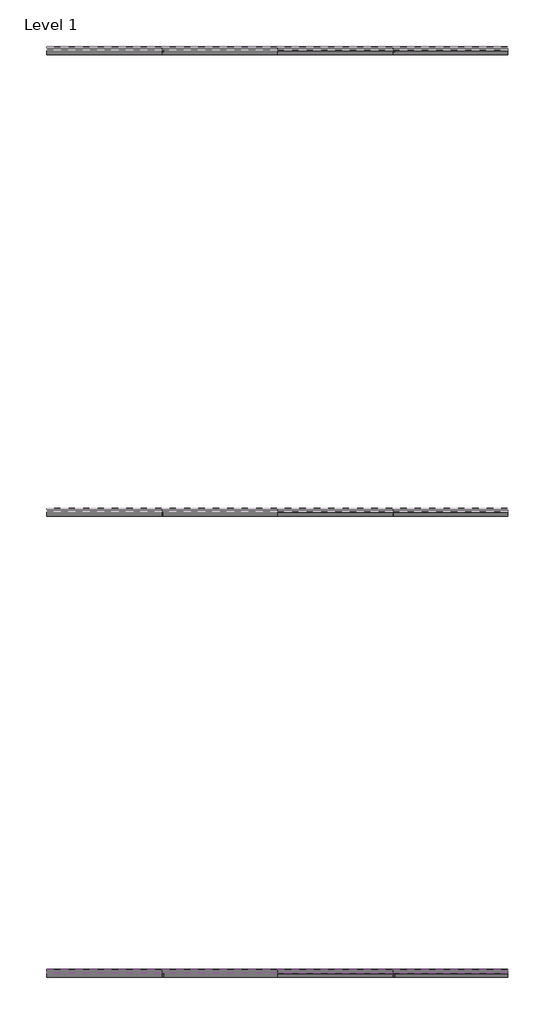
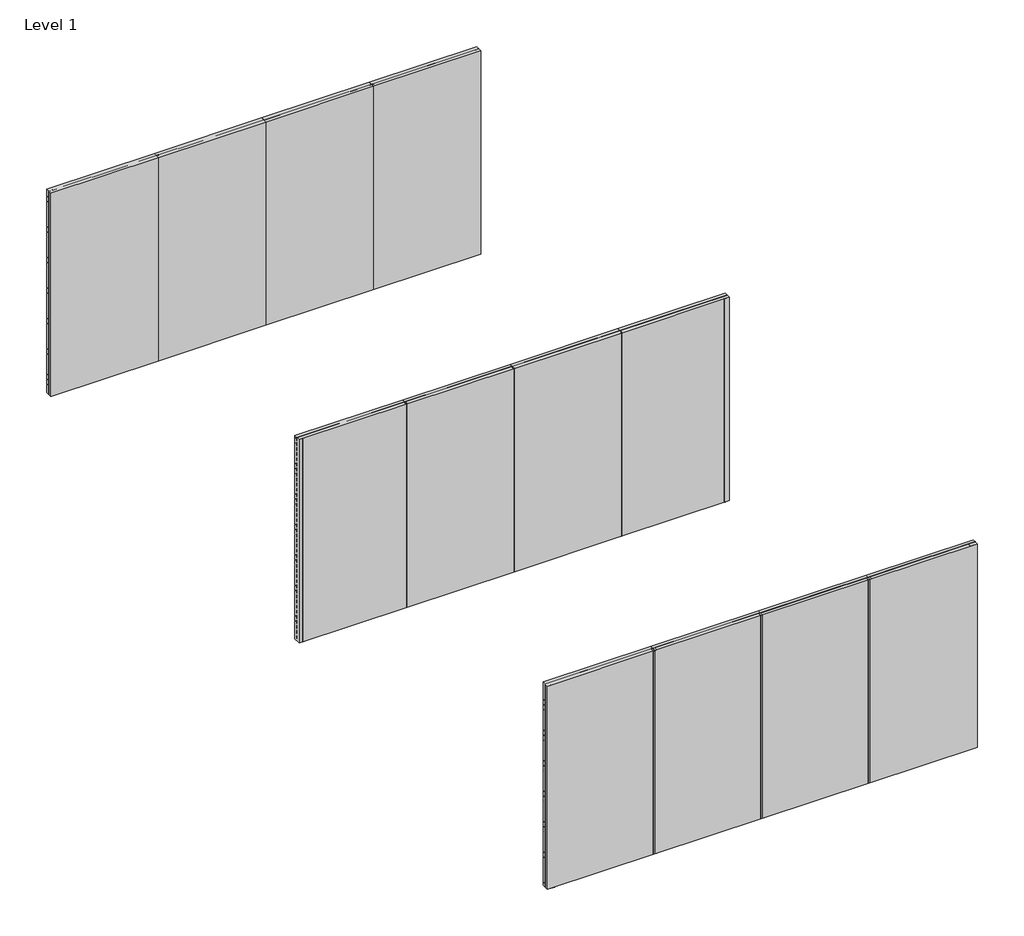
# One storey, part 1 of 2: 49 proxies, 15 members, 15 plates.
"""IFC4 building model written with IfcOpenShell, lengths in millimetres."""

from ifc_helpers import new_model, si_unit, frame, origin, origin_with_axes, place, context, project, spatial, polyline, outline, extrude, transform, mapped, element, save
from components import rectangular_mullion_bbbcbd30, rectangular_mullion_f8d4a220, rectangular_mullion_81aaf6fe, rectangular_mullion_6e08dc26, rectangular_mullion_75c52e10, rectangular_mullion_40295cf1, rectangular_mullion_7f158cb3, rectangular_mullion_66519e13, rectangular_mullion_5829b51c, empty_system_panel_empty_ae16e1e1

model = new_model("IFC4")

# Units and contexts
model_context = context("Model", 3, world=origin())
ifc_project = project(units=[si_unit("LENGTHUNIT", "METRE", prefix="MILLI")], contexts=[model_context])

# Site, building, storey
site = spatial("IfcSite", under=ifc_project)
building = spatial("IfcBuilding", under=site)
storey = spatial("IfcBuildingStorey", under=building, Name="Level 1", Elevation=0.0)

# Proxies
placement = place(None, origin())
element("IfcBuildingElementProxy", 1, Name="Wall Sweeps", at=placement, inside=storey, context=model_context, shape_type="SweptSolid", body=[
    extrude(outline(polyline([(-7995.0, 3000.0), (-7995.0, 2991.2901632), (-7946.0, 2963.0), (-7946.0, 2928.0), (-7997.0, 2957.4448637), (-7997.0, 3000.0), (-7995.0, 3000.0)])), frame((0.0, 0.0, 0.0), z_axis=(1.0, 0.0, 0.0), x_axis=(0.0, 1.0, 0.0)), (0.0, 0.0, 1.0), 6000.0),
])
element("IfcBuildingElementProxy", 2, Name="Wall Sweeps", at=placement, inside=storey, context=model_context, shape_type="SweptSolid", body=[
    extrude(outline(polyline([(-7995.0, 2925.0), (-7995.0, 2916.2901632), (-7946.0, 2888.0), (-7946.0, 2853.0), (-7997.0, 2882.4448637), (-7997.0, 2925.0), (-7995.0, 2925.0)])), frame((0.0, 0.0, 0.0), z_axis=(1.0, 0.0, 0.0), x_axis=(0.0, 1.0, 0.0)), (0.0, 0.0, 1.0), 6000.0),
])
element("IfcBuildingElementProxy", 3, Name="Wall Sweeps", at=placement, inside=storey, context=model_context, shape_type="SweptSolid", body=[
    extrude(outline(polyline([(-7995.0, 2850.0), (-7995.0, 2841.2901632), (-7946.0, 2813.0), (-7946.0, 2778.0), (-7997.0, 2807.4448637), (-7997.0, 2850.0), (-7995.0, 2850.0)])), frame((0.0, 0.0, 0.0), z_axis=(1.0, 0.0, 0.0), x_axis=(0.0, 1.0, 0.0)), (0.0, 0.0, 1.0), 6000.0),
])
element("IfcBuildingElementProxy", 4, Name="Wall Sweeps", at=placement, inside=storey, context=model_context, shape_type="SweptSolid", body=[
    extrude(outline(polyline([(-7995.0, 2775.0), (-7995.0, 2766.2901632), (-7946.0, 2738.0), (-7946.0, 2703.0), (-7997.0, 2732.4448637), (-7997.0, 2775.0), (-7995.0, 2775.0)])), frame((0.0, 0.0, 0.0), z_axis=(1.0, 0.0, 0.0), x_axis=(0.0, 1.0, 0.0)), (0.0, 0.0, 1.0), 6000.0),
])
element("IfcBuildingElementProxy", 5, Name="Wall Sweeps", at=placement, inside=storey, context=model_context, shape_type="SweptSolid", body=[
    extrude(outline(polyline([(-7995.0, 2700.0), (-7995.0, 2691.2901632), (-7946.0, 2663.0), (-7946.0, 2628.0), (-7997.0, 2657.4448637), (-7997.0, 2700.0), (-7995.0, 2700.0)])), frame((0.0, 0.0, 0.0), z_axis=(1.0, 0.0, 0.0), x_axis=(0.0, 1.0, 0.0)), (0.0, 0.0, 1.0), 6000.0),
])
element("IfcBuildingElementProxy", 6, Name="Wall Sweeps", at=placement, inside=storey, context=model_context, shape_type="SweptSolid", body=[
    extrude(outline(polyline([(-7995.0, 2625.0), (-7995.0, 2616.2901632), (-7946.0, 2588.0), (-7946.0, 2553.0), (-7997.0, 2582.4448637), (-7997.0, 2625.0), (-7995.0, 2625.0)])), frame((0.0, 0.0, 0.0), z_axis=(1.0, 0.0, 0.0), x_axis=(0.0, 1.0, 0.0)), (0.0, 0.0, 1.0), 6000.0),
])
element("IfcBuildingElementProxy", 7, Name="Wall Sweeps", at=placement, inside=storey, context=model_context, shape_type="SweptSolid", body=[
    extrude(outline(polyline([(-7995.0, 2550.0), (-7995.0, 2541.2901632), (-7946.0, 2513.0), (-7946.0, 2478.0), (-7997.0, 2507.4448637), (-7997.0, 2550.0), (-7995.0, 2550.0)])), frame((0.0, 0.0, 0.0), z_axis=(1.0, 0.0, 0.0), x_axis=(0.0, 1.0, 0.0)), (0.0, 0.0, 1.0), 6000.0),
])
element("IfcBuildingElementProxy", 8, Name="Wall Sweeps", at=placement, inside=storey, context=model_context, shape_type="SweptSolid", body=[
    extrude(outline(polyline([(-7995.0, 2475.0), (-7995.0, 2466.2901632), (-7946.0, 2438.0), (-7946.0, 2403.0), (-7997.0, 2432.4448637), (-7997.0, 2475.0), (-7995.0, 2475.0)])), frame((0.0, 0.0, 0.0), z_axis=(1.0, 0.0, 0.0), x_axis=(0.0, 1.0, 0.0)), (0.0, 0.0, 1.0), 6000.0),
])
element("IfcBuildingElementProxy", 9, Name="Wall Sweeps", at=placement, inside=storey, context=model_context, shape_type="SweptSolid", body=[
    extrude(outline(polyline([(-7995.0, 2400.0), (-7995.0, 2391.2901632), (-7946.0, 2363.0), (-7946.0, 2328.0), (-7997.0, 2357.4448637), (-7997.0, 2400.0), (-7995.0, 2400.0)])), frame((0.0, 0.0, 0.0), z_axis=(1.0, 0.0, 0.0), x_axis=(0.0, 1.0, 0.0)), (0.0, 0.0, 1.0), 6000.0),
])
element("IfcBuildingElementProxy", 10, Name="Wall Sweeps", at=placement, inside=storey, context=model_context, shape_type="SweptSolid", body=[
    extrude(outline(polyline([(-13995.0, 3000.0), (-13995.0, 2991.2901632), (-13946.0, 2963.0), (-13946.0, 2928.0), (-13997.0, 2957.4448637), (-13997.0, 3000.0), (-13995.0, 3000.0)])), frame((0.0, 0.0, 0.0), z_axis=(1.0, 0.0, 0.0), x_axis=(0.0, 1.0, 0.0)), (0.0, 0.0, 1.0), 6000.0),
])
element("IfcBuildingElementProxy", 11, Name="Wall Sweeps", at=placement, inside=storey, context=model_context, shape_type="SweptSolid", body=[
    extrude(outline(polyline([(-13995.0, 2925.0), (-13995.0, 2916.2901632), (-13946.0, 2888.0), (-13946.0, 2853.0), (-13997.0, 2882.4448637), (-13997.0, 2925.0), (-13995.0, 2925.0)])), frame((0.0, 0.0, 0.0), z_axis=(1.0, 0.0, 0.0), x_axis=(0.0, 1.0, 0.0)), (0.0, 0.0, 1.0), 6000.0),
])
element("IfcBuildingElementProxy", 12, Name="Wall Sweeps", at=placement, inside=storey, context=model_context, shape_type="SweptSolid", body=[
    extrude(outline(polyline([(-13995.0, 2850.0), (-13995.0, 2841.2901632), (-13946.0, 2813.0), (-13946.0, 2778.0), (-13997.0, 2807.4448637), (-13997.0, 2850.0), (-13995.0, 2850.0)])), frame((0.0, 0.0, 0.0), z_axis=(1.0, 0.0, 0.0), x_axis=(0.0, 1.0, 0.0)), (0.0, 0.0, 1.0), 6000.0),
])
element("IfcBuildingElementProxy", 13, Name="Wall Sweeps", at=placement, inside=storey, context=model_context, shape_type="SweptSolid", body=[
    extrude(outline(polyline([(-13995.0, 2775.0), (-13995.0, 2766.2901632), (-13946.0, 2738.0), (-13946.0, 2703.0), (-13997.0, 2732.4448637), (-13997.0, 2775.0), (-13995.0, 2775.0)])), frame((0.0, 0.0, 0.0), z_axis=(1.0, 0.0, 0.0), x_axis=(0.0, 1.0, 0.0)), (0.0, 0.0, 1.0), 6000.0),
])
element("IfcBuildingElementProxy", 14, Name="Wall Sweeps", at=placement, inside=storey, context=model_context, shape_type="SweptSolid", body=[
    extrude(outline(polyline([(-13995.0, 2700.0), (-13995.0, 2691.2901632), (-13946.0, 2663.0), (-13946.0, 2628.0), (-13997.0, 2657.4448637), (-13997.0, 2700.0), (-13995.0, 2700.0)])), frame((0.0, 0.0, 0.0), z_axis=(1.0, 0.0, 0.0), x_axis=(0.0, 1.0, 0.0)), (0.0, 0.0, 1.0), 6000.0),
])
element("IfcBuildingElementProxy", 15, Name="Wall Sweeps", at=placement, inside=storey, context=model_context, shape_type="SweptSolid", body=[
    extrude(outline(polyline([(-13995.0, 2625.0), (-13995.0, 2616.2901632), (-13946.0, 2588.0), (-13946.0, 2553.0), (-13997.0, 2582.4448637), (-13997.0, 2625.0), (-13995.0, 2625.0)])), frame((0.0, 0.0, 0.0), z_axis=(1.0, 0.0, 0.0), x_axis=(0.0, 1.0, 0.0)), (0.0, 0.0, 1.0), 6000.0),
])
element("IfcBuildingElementProxy", 16, Name="Wall Sweeps", at=placement, inside=storey, context=model_context, shape_type="SweptSolid", body=[
    extrude(outline(polyline([(-13995.0, 2550.0), (-13995.0, 2541.2901632), (-13946.0, 2513.0), (-13946.0, 2478.0), (-13997.0, 2507.4448637), (-13997.0, 2550.0), (-13995.0, 2550.0)])), frame((0.0, 0.0, 0.0), z_axis=(1.0, 0.0, 0.0), x_axis=(0.0, 1.0, 0.0)), (0.0, 0.0, 1.0), 6000.0),
])
element("IfcBuildingElementProxy", 17, Name="Wall Sweeps", at=placement, inside=storey, context=model_context, shape_type="SweptSolid", body=[
    extrude(outline(polyline([(-13995.0, 2475.0), (-13995.0, 2466.2901632), (-13946.0, 2438.0), (-13946.0, 2403.0), (-13997.0, 2432.4448637), (-13997.0, 2475.0), (-13995.0, 2475.0)])), frame((0.0, 0.0, 0.0), z_axis=(1.0, 0.0, 0.0), x_axis=(0.0, 1.0, 0.0)), (0.0, 0.0, 1.0), 6000.0),
])
element("IfcBuildingElementProxy", 18, Name="Wall Sweeps", at=placement, inside=storey, context=model_context, shape_type="SweptSolid", body=[
    extrude(outline(polyline([(-13995.0, 2400.0), (-13995.0, 2391.2901632), (-13946.0, 2363.0), (-13946.0, 2328.0), (-13997.0, 2357.4448637), (-13997.0, 2400.0), (-13995.0, 2400.0)])), frame((0.0, 0.0, 0.0), z_axis=(1.0, 0.0, 0.0), x_axis=(0.0, 1.0, 0.0)), (0.0, 0.0, 1.0), 6000.0),
])
element("IfcBuildingElementProxy", 19, Name="Wall Sweeps", at=placement, inside=storey, context=model_context, shape_type="SweptSolid", body=[
    extrude(outline(polyline([(-13995.0, 2325.0), (-13995.0, 2316.2901632), (-13946.0, 2288.0), (-13946.0, 2253.0), (-13997.0, 2282.4448637), (-13997.0, 2325.0), (-13995.0, 2325.0)])), frame((0.0, 0.0, 0.0), z_axis=(1.0, 0.0, 0.0), x_axis=(0.0, 1.0, 0.0)), (0.0, 0.0, 1.0), 6000.0),
])
element("IfcBuildingElementProxy", 20, Name="Wall Sweeps", at=placement, inside=storey, context=model_context, shape_type="SweptSolid", body=[
    extrude(outline(polyline([(-13995.0, 2250.0), (-13995.0, 2241.2901632), (-13946.0, 2213.0), (-13946.0, 2178.0), (-13997.0, 2207.4448637), (-13997.0, 2250.0), (-13995.0, 2250.0)])), frame((0.0, 0.0, 0.0), z_axis=(1.0, 0.0, 0.0), x_axis=(0.0, 1.0, 0.0)), (0.0, 0.0, 1.0), 6000.0),
])
element("IfcBuildingElementProxy", 21, Name="Wall Sweeps", at=placement, inside=storey, context=model_context, shape_type="SweptSolid", body=[
    extrude(outline(polyline([(-13995.0, 2175.0), (-13995.0, 2166.2901632), (-13946.0, 2138.0), (-13946.0, 2103.0), (-13997.0, 2132.4448637), (-13997.0, 2175.0), (-13995.0, 2175.0)])), frame((0.0, 0.0, 0.0), z_axis=(1.0, 0.0, 0.0), x_axis=(0.0, 1.0, 0.0)), (0.0, 0.0, 1.0), 6000.0),
])
element("IfcBuildingElementProxy", 22, Name="Wall Sweeps", at=placement, inside=storey, context=model_context, shape_type="SweptSolid", body=[
    extrude(outline(polyline([(-13995.0, 2100.0), (-13995.0, 2091.2901632), (-13946.0, 2063.0), (-13946.0, 2028.0), (-13997.0, 2057.4448637), (-13997.0, 2100.0), (-13995.0, 2100.0)])), frame((0.0, 0.0, 0.0), z_axis=(1.0, 0.0, 0.0), x_axis=(0.0, 1.0, 0.0)), (0.0, 0.0, 1.0), 6000.0),
])
element("IfcBuildingElementProxy", 23, Name="Wall Sweeps", at=placement, inside=storey, context=model_context, shape_type="SweptSolid", body=[
    extrude(outline(polyline([(-13995.0, 2025.0), (-13995.0, 2016.2901632), (-13946.0, 1988.0), (-13946.0, 1953.0), (-13997.0, 1982.4448637), (-13997.0, 2025.0), (-13995.0, 2025.0)])), frame((0.0, 0.0, 0.0), z_axis=(1.0, 0.0, 0.0), x_axis=(0.0, 1.0, 0.0)), (0.0, 0.0, 1.0), 6000.0),
])
element("IfcBuildingElementProxy", 24, Name="Wall Sweeps", at=placement, inside=storey, context=model_context, shape_type="SweptSolid", body=[
    extrude(outline(polyline([(-13995.0, 1950.0), (-13995.0, 1941.2901632), (-13946.0, 1913.0), (-13946.0, 1878.0), (-13997.0, 1907.4448637), (-13997.0, 1950.0), (-13995.0, 1950.0)])), frame((0.0, 0.0, 0.0), z_axis=(1.0, 0.0, 0.0), x_axis=(0.0, 1.0, 0.0)), (0.0, 0.0, 1.0), 6000.0),
])
element("IfcBuildingElementProxy", 25, Name="Wall Sweeps", at=placement, inside=storey, context=model_context, shape_type="SweptSolid", body=[
    extrude(outline(polyline([(-13995.0, 1875.0), (-13995.0, 1866.2901632), (-13946.0, 1838.0), (-13946.0, 1803.0), (-13997.0, 1832.4448637), (-13997.0, 1875.0), (-13995.0, 1875.0)])), frame((0.0, 0.0, 0.0), z_axis=(1.0, 0.0, 0.0), x_axis=(0.0, 1.0, 0.0)), (0.0, 0.0, 1.0), 6000.0),
])
element("IfcBuildingElementProxy", 26, Name="Wall Sweeps", at=placement, inside=storey, context=model_context, shape_type="SweptSolid", body=[
    extrude(outline(polyline([(-13995.0, 1800.0), (-13995.0, 1791.2901632), (-13946.0, 1763.0), (-13946.0, 1728.0), (-13997.0, 1757.4448637), (-13997.0, 1800.0), (-13995.0, 1800.0)])), frame((0.0, 0.0, 0.0), z_axis=(1.0, 0.0, 0.0), x_axis=(0.0, 1.0, 0.0)), (0.0, 0.0, 1.0), 6000.0),
])
element("IfcBuildingElementProxy", 27, Name="Wall Sweeps", at=placement, inside=storey, context=model_context, shape_type="SweptSolid", body=[
    extrude(outline(polyline([(-13995.0, 1725.0), (-13995.0, 1716.2901632), (-13946.0, 1688.0), (-13946.0, 1653.0), (-13997.0, 1682.4448637), (-13997.0, 1725.0), (-13995.0, 1725.0)])), frame((0.0, 0.0, 0.0), z_axis=(1.0, 0.0, 0.0), x_axis=(0.0, 1.0, 0.0)), (0.0, 0.0, 1.0), 6000.0),
])
element("IfcBuildingElementProxy", 28, Name="Wall Sweeps", at=placement, inside=storey, context=model_context, shape_type="SweptSolid", body=[
    extrude(outline(polyline([(-13995.0, 1650.0), (-13995.0, 1641.2901632), (-13946.0, 1613.0), (-13946.0, 1578.0), (-13997.0, 1607.4448637), (-13997.0, 1650.0), (-13995.0, 1650.0)])), frame((0.0, 0.0, 0.0), z_axis=(1.0, 0.0, 0.0), x_axis=(0.0, 1.0, 0.0)), (0.0, 0.0, 1.0), 6000.0),
])
element("IfcBuildingElementProxy", 29, Name="Wall Sweeps", at=placement, inside=storey, context=model_context, shape_type="SweptSolid", body=[
    extrude(outline(polyline([(-13995.0, 1575.0), (-13995.0, 1566.2901632), (-13946.0, 1538.0), (-13946.0, 1503.0), (-13997.0, 1532.4448637), (-13997.0, 1575.0), (-13995.0, 1575.0)])), frame((0.0, 0.0, 0.0), z_axis=(1.0, 0.0, 0.0), x_axis=(0.0, 1.0, 0.0)), (0.0, 0.0, 1.0), 6000.0),
])
element("IfcBuildingElementProxy", 30, Name="Wall Sweeps", at=placement, inside=storey, context=model_context, shape_type="SweptSolid", body=[
    extrude(outline(polyline([(-13995.0, 1500.0), (-13995.0, 1491.2901632), (-13946.0, 1463.0), (-13946.0, 1428.0), (-13997.0, 1457.4448637), (-13997.0, 1500.0), (-13995.0, 1500.0)])), frame((0.0, 0.0, 0.0), z_axis=(1.0, 0.0, 0.0), x_axis=(0.0, 1.0, 0.0)), (0.0, 0.0, 1.0), 6000.0),
])
element("IfcBuildingElementProxy", 31, Name="Wall Sweeps", at=placement, inside=storey, context=model_context, shape_type="SweptSolid", body=[
    extrude(outline(polyline([(-13995.0, 1425.0), (-13995.0, 1416.2901632), (-13946.0, 1388.0), (-13946.0, 1353.0), (-13997.0, 1382.4448637), (-13997.0, 1425.0), (-13995.0, 1425.0)])), frame((0.0, 0.0, 0.0), z_axis=(1.0, 0.0, 0.0), x_axis=(0.0, 1.0, 0.0)), (0.0, 0.0, 1.0), 6000.0),
])
element("IfcBuildingElementProxy", 32, Name="Wall Sweeps", at=placement, inside=storey, context=model_context, shape_type="SweptSolid", body=[
    extrude(outline(polyline([(-13995.0, 1350.0), (-13995.0, 1341.2901632), (-13946.0, 1313.0), (-13946.0, 1278.0), (-13997.0, 1307.4448637), (-13997.0, 1350.0), (-13995.0, 1350.0)])), frame((0.0, 0.0, 0.0), z_axis=(1.0, 0.0, 0.0), x_axis=(0.0, 1.0, 0.0)), (0.0, 0.0, 1.0), 6000.0),
])
element("IfcBuildingElementProxy", 33, Name="Wall Sweeps", at=placement, inside=storey, context=model_context, shape_type="SweptSolid", body=[
    extrude(outline(polyline([(-13995.0, 1275.0), (-13995.0, 1266.2901632), (-13946.0, 1238.0), (-13946.0, 1203.0), (-13997.0, 1232.4448637), (-13997.0, 1275.0), (-13995.0, 1275.0)])), frame((0.0, 0.0, 0.0), z_axis=(1.0, 0.0, 0.0), x_axis=(0.0, 1.0, 0.0)), (0.0, 0.0, 1.0), 6000.0),
])
element("IfcBuildingElementProxy", 34, Name="Wall Sweeps", at=placement, inside=storey, context=model_context, shape_type="SweptSolid", body=[
    extrude(outline(polyline([(-13995.0, 1200.0), (-13995.0, 1191.2901632), (-13946.0, 1163.0), (-13946.0, 1128.0), (-13997.0, 1157.4448637), (-13997.0, 1200.0), (-13995.0, 1200.0)])), frame((0.0, 0.0, 0.0), z_axis=(1.0, 0.0, 0.0), x_axis=(0.0, 1.0, 0.0)), (0.0, 0.0, 1.0), 6000.0),
])
element("IfcBuildingElementProxy", 35, Name="Wall Sweeps", at=placement, inside=storey, context=model_context, shape_type="SweptSolid", body=[
    extrude(outline(polyline([(-13995.0, 1125.0), (-13995.0, 1116.2901632), (-13946.0, 1088.0), (-13946.0, 1053.0), (-13997.0, 1082.4448637), (-13997.0, 1125.0), (-13995.0, 1125.0)])), frame((0.0, 0.0, 0.0), z_axis=(1.0, 0.0, 0.0), x_axis=(0.0, 1.0, 0.0)), (0.0, 0.0, 1.0), 6000.0),
])
element("IfcBuildingElementProxy", 36, Name="Wall Sweeps", at=placement, inside=storey, context=model_context, shape_type="SweptSolid", body=[
    extrude(outline(polyline([(-13995.0, 1050.0), (-13995.0, 1041.2901632), (-13946.0, 1013.0), (-13946.0, 978.0), (-13997.0, 1007.4448637), (-13997.0, 1050.0), (-13995.0, 1050.0)])), frame((0.0, 0.0, 0.0), z_axis=(1.0, 0.0, 0.0), x_axis=(0.0, 1.0, 0.0)), (0.0, 0.0, 1.0), 6000.0),
])
element("IfcBuildingElementProxy", 37, Name="Wall Sweeps", at=placement, inside=storey, context=model_context, shape_type="SweptSolid", body=[
    extrude(outline(polyline([(-13995.0, 975.0), (-13995.0, 966.2901632), (-13946.0, 938.0), (-13946.0, 903.0), (-13997.0, 932.4448637), (-13997.0, 975.0), (-13995.0, 975.0)])), frame((0.0, 0.0, 0.0), z_axis=(1.0, 0.0, 0.0), x_axis=(0.0, 1.0, 0.0)), (0.0, 0.0, 1.0), 6000.0),
])
element("IfcBuildingElementProxy", 38, Name="Wall Sweeps", at=placement, inside=storey, context=model_context, shape_type="SweptSolid", body=[
    extrude(outline(polyline([(-13995.0, 900.0), (-13995.0, 891.2901632), (-13946.0, 863.0), (-13946.0, 828.0), (-13997.0, 857.4448637), (-13997.0, 900.0), (-13995.0, 900.0)])), frame((0.0, 0.0, 0.0), z_axis=(1.0, 0.0, 0.0), x_axis=(0.0, 1.0, 0.0)), (0.0, 0.0, 1.0), 6000.0),
])
element("IfcBuildingElementProxy", 39, Name="Wall Sweeps", at=placement, inside=storey, context=model_context, shape_type="SweptSolid", body=[
    extrude(outline(polyline([(-13995.0, 825.0), (-13995.0, 816.2901632), (-13946.0, 788.0), (-13946.0, 753.0), (-13997.0, 782.4448637), (-13997.0, 825.0), (-13995.0, 825.0)])), frame((0.0, 0.0, 0.0), z_axis=(1.0, 0.0, 0.0), x_axis=(0.0, 1.0, 0.0)), (0.0, 0.0, 1.0), 6000.0),
])
element("IfcBuildingElementProxy", 40, Name="Wall Sweeps", at=placement, inside=storey, context=model_context, shape_type="SweptSolid", body=[
    extrude(outline(polyline([(-13995.0, 750.0), (-13995.0, 741.2901632), (-13946.0, 713.0), (-13946.0, 678.0), (-13997.0, 707.4448637), (-13997.0, 750.0), (-13995.0, 750.0)])), frame((0.0, 0.0, 0.0), z_axis=(1.0, 0.0, 0.0), x_axis=(0.0, 1.0, 0.0)), (0.0, 0.0, 1.0), 6000.0),
])
element("IfcBuildingElementProxy", 41, Name="Wall Sweeps", at=placement, inside=storey, context=model_context, shape_type="SweptSolid", body=[
    extrude(outline(polyline([(-13995.0, 675.0), (-13995.0, 666.2901632), (-13946.0, 638.0), (-13946.0, 603.0), (-13997.0, 632.4448637), (-13997.0, 675.0), (-13995.0, 675.0)])), frame((0.0, 0.0, 0.0), z_axis=(1.0, 0.0, 0.0), x_axis=(0.0, 1.0, 0.0)), (0.0, 0.0, 1.0), 6000.0),
])
element("IfcBuildingElementProxy", 42, Name="Wall Sweeps", at=placement, inside=storey, context=model_context, shape_type="SweptSolid", body=[
    extrude(outline(polyline([(-13995.0, 600.0), (-13995.0, 591.2901632), (-13946.0, 563.0), (-13946.0, 528.0), (-13997.0, 557.4448637), (-13997.0, 600.0), (-13995.0, 600.0)])), frame((0.0, 0.0, 0.0), z_axis=(1.0, 0.0, 0.0), x_axis=(0.0, 1.0, 0.0)), (0.0, 0.0, 1.0), 6000.0),
])
element("IfcBuildingElementProxy", 43, Name="Wall Sweeps", at=placement, inside=storey, context=model_context, shape_type="SweptSolid", body=[
    extrude(outline(polyline([(-13995.0, 525.0), (-13995.0, 516.2901632), (-13946.0, 488.0), (-13946.0, 453.0), (-13997.0, 482.4448637), (-13997.0, 525.0), (-13995.0, 525.0)])), frame((0.0, 0.0, 0.0), z_axis=(1.0, 0.0, 0.0), x_axis=(0.0, 1.0, 0.0)), (0.0, 0.0, 1.0), 6000.0),
])
element("IfcBuildingElementProxy", 44, Name="Wall Sweeps", at=placement, inside=storey, context=model_context, shape_type="SweptSolid", body=[
    extrude(outline(polyline([(-13995.0, 450.0), (-13995.0, 441.2901632), (-13946.0, 413.0), (-13946.0, 378.0), (-13997.0, 407.4448637), (-13997.0, 450.0), (-13995.0, 450.0)])), frame((0.0, 0.0, 0.0), z_axis=(1.0, 0.0, 0.0), x_axis=(0.0, 1.0, 0.0)), (0.0, 0.0, 1.0), 6000.0),
])
element("IfcBuildingElementProxy", 45, Name="Wall Sweeps", at=placement, inside=storey, context=model_context, shape_type="SweptSolid", body=[
    extrude(outline(polyline([(-13995.0, 375.0), (-13995.0, 366.2901632), (-13946.0, 338.0), (-13946.0, 303.0), (-13997.0, 332.4448637), (-13997.0, 375.0), (-13995.0, 375.0)])), frame((0.0, 0.0, 0.0), z_axis=(1.0, 0.0, 0.0), x_axis=(0.0, 1.0, 0.0)), (0.0, 0.0, 1.0), 6000.0),
])
element("IfcBuildingElementProxy", 46, Name="Wall Sweeps", at=placement, inside=storey, context=model_context, shape_type="SweptSolid", body=[
    extrude(outline(polyline([(-13995.0, 300.0), (-13995.0, 291.2901632), (-13946.0, 263.0), (-13946.0, 228.0), (-13997.0, 257.4448637), (-13997.0, 300.0), (-13995.0, 300.0)])), frame((0.0, 0.0, 0.0), z_axis=(1.0, 0.0, 0.0), x_axis=(0.0, 1.0, 0.0)), (0.0, 0.0, 1.0), 6000.0),
])
element("IfcBuildingElementProxy", 47, Name="Wall Sweeps", at=placement, inside=storey, context=model_context, shape_type="SweptSolid", body=[
    extrude(outline(polyline([(-13995.0, 225.0), (-13995.0, 216.2901632), (-13946.0, 188.0), (-13946.0, 153.0), (-13997.0, 182.4448637), (-13997.0, 225.0), (-13995.0, 225.0)])), frame((0.0, 0.0, 0.0), z_axis=(1.0, 0.0, 0.0), x_axis=(0.0, 1.0, 0.0)), (0.0, 0.0, 1.0), 6000.0),
])
element("IfcBuildingElementProxy", 48, Name="Wall Sweeps", at=placement, inside=storey, context=model_context, shape_type="SweptSolid", body=[
    extrude(outline(polyline([(-13995.0, 150.0), (-13995.0, 141.2901632), (-13946.0, 113.0), (-13946.0, 78.0), (-13997.0, 107.4448637), (-13997.0, 150.0), (-13995.0, 150.0)])), frame((0.0, 0.0, 0.0), z_axis=(1.0, 0.0, 0.0), x_axis=(0.0, 1.0, 0.0)), (0.0, 0.0, 1.0), 6000.0),
])
element("IfcBuildingElementProxy", 49, Name="Wall Sweeps", at=placement, inside=storey, context=model_context, shape_type="SweptSolid", body=[
    extrude(outline(polyline([(-13995.0, 75.0), (-13995.0, 66.2901632), (-13946.0, 38.0), (-13946.0, 3.0), (-13997.0, 32.4448637), (-13997.0, 75.0), (-13995.0, 75.0)])), frame((0.0, 0.0, 0.0), z_axis=(1.0, 0.0, 0.0), x_axis=(0.0, 1.0, 0.0)), (0.0, 0.0, 1.0), 6000.0),
])

# Members
rectangular_mullion_shape = rectangular_mullion_bbbcbd30(model_context)
element("IfcMember", 50, ObjectType="Rectangular Mullion : RSen_21_CWM_support profile - 50x12 - left_gen_duco projects", at=placement, inside=storey, context=model_context, shape_type="MappedRepresentation", body=[
    mapped(rectangular_mullion_shape, transform((0.0, -2000.0, 0.0), x_axis=(-1.0, 0.0, 0.0), y_axis=(0.0, 1.0, 0.0), z_axis=(0.0, 0.0, -1.0))),
])
rectangular_mullion_2_shape = rectangular_mullion_f8d4a220(model_context)
element("IfcMember", 51, ObjectType="Rectangular Mullion : RSen_21_CWM_support profile - 50x12 - right_gen_duco projects", at=placement, inside=storey, context=model_context, shape_type="MappedRepresentation", body=[
    mapped(rectangular_mullion_2_shape, transform((6000.0, -2000.0, 3000.0), x_axis=(1.0, 0.0, 0.0), y_axis=(0.0, 1.0, 0.0), z_axis=(0.0, 0.0, 1.0))),
])
rectangular_mullion_3_shape = rectangular_mullion_81aaf6fe(model_context)
element("IfcMember", 52, ObjectType="Rectangular Mullion : RSen_21_CWM_support profile - 21x50 Multi - left_gen_duco projects", at=placement, inside=storey, context=model_context, shape_type="MappedRepresentation", body=[
    mapped(rectangular_mullion_3_shape, transform((0.0, -8000.0, 0.0), x_axis=(-1.0, 0.0, 0.0), y_axis=(0.0, 1.0, 0.0), z_axis=(0.0, 0.0, -1.0))),
])
rectangular_mullion_4_shape = rectangular_mullion_6e08dc26(model_context)
element("IfcMember", 53, ObjectType="Rectangular Mullion : RSen_21_CWM_support profile - 21x50 Multi - right_gen_duco projects", at=placement, inside=storey, context=model_context, shape_type="MappedRepresentation", body=[
    mapped(rectangular_mullion_4_shape, transform((6000.0, -8000.0, 3000.0), x_axis=(1.0, 0.0, 0.0), y_axis=(0.0, 1.0, 0.0), z_axis=(0.0, 0.0, 1.0))),
])
rectangular_mullion_5_shape = rectangular_mullion_75c52e10(model_context)
element("IfcMember", 54, ObjectType="Rectangular Mullion : RSen_21_CWM_support profile - 50x50 - left_gen_duco projects", at=placement, inside=storey, context=model_context, shape_type="MappedRepresentation", body=[
    mapped(rectangular_mullion_5_shape, transform((0.0, -14000.0, 0.0), x_axis=(-1.0, 0.0, 0.0), y_axis=(0.0, 1.0, 0.0), z_axis=(0.0, 0.0, -1.0))),
])
rectangular_mullion_6_shape = rectangular_mullion_40295cf1(model_context)
element("IfcMember", 55, ObjectType="Rectangular Mullion : RSen_21_CWM_support profile - 50x50 - right_gen_duco projects", at=placement, inside=storey, context=model_context, shape_type="MappedRepresentation", body=[
    mapped(rectangular_mullion_6_shape, transform((6000.0, -14000.0, 3000.0), x_axis=(1.0, 0.0, 0.0), y_axis=(0.0, 1.0, 0.0), z_axis=(0.0, 0.0, 1.0))),
])
rectangular_mullion_7_shape = rectangular_mullion_7f158cb3(model_context)
element("IfcMember", 56, ObjectType="Rectangular Mullion : RSen_21_CWM_support profile - 50x12_gen_duco projects", at=placement, inside=storey, context=model_context, shape_type="MappedRepresentation", body=[
    mapped(rectangular_mullion_7_shape, transform((4500.0, -2000.0, 0.0), x_axis=(-1.0, 0.0, 0.0), y_axis=(0.0, 1.0, 0.0), z_axis=(0.0, 0.0, -1.0))),
])
element("IfcMember", 57, ObjectType="Rectangular Mullion : RSen_21_CWM_support profile - 50x12_gen_duco projects", at=placement, inside=storey, context=model_context, shape_type="MappedRepresentation", body=[
    mapped(rectangular_mullion_7_shape, transform((3000.0, -2000.0, 0.0), x_axis=(-1.0, 0.0, 0.0), y_axis=(0.0, 1.0, 0.0), z_axis=(0.0, 0.0, -1.0))),
])
element("IfcMember", 58, ObjectType="Rectangular Mullion : RSen_21_CWM_support profile - 50x12_gen_duco projects", at=placement, inside=storey, context=model_context, shape_type="MappedRepresentation", body=[
    mapped(rectangular_mullion_7_shape, transform((1500.0, -2000.0, 0.0), x_axis=(-1.0, 0.0, 0.0), y_axis=(0.0, 1.0, 0.0), z_axis=(0.0, 0.0, -1.0))),
])
rectangular_mullion_8_shape = rectangular_mullion_66519e13(model_context)
element("IfcMember", 59, ObjectType="Rectangular Mullion : RSen_21_CWM_support profile - 21x50 Multi_gen_duco projects", at=placement, inside=storey, context=model_context, shape_type="MappedRepresentation", body=[
    mapped(rectangular_mullion_8_shape, transform((4500.0, -8000.0, 0.0), x_axis=(-1.0, 0.0, 0.0), y_axis=(0.0, 1.0, 0.0), z_axis=(0.0, 0.0, -1.0))),
])
element("IfcMember", 60, ObjectType="Rectangular Mullion : RSen_21_CWM_support profile - 21x50 Multi_gen_duco projects", at=placement, inside=storey, context=model_context, shape_type="MappedRepresentation", body=[
    mapped(rectangular_mullion_8_shape, transform((3000.0, -8000.0, 0.0), x_axis=(-1.0, 0.0, 0.0), y_axis=(0.0, 1.0, 0.0), z_axis=(0.0, 0.0, -1.0))),
])
element("IfcMember", 61, ObjectType="Rectangular Mullion : RSen_21_CWM_support profile - 21x50 Multi_gen_duco projects", at=placement, inside=storey, context=model_context, shape_type="MappedRepresentation", body=[
    mapped(rectangular_mullion_8_shape, transform((1500.0, -8000.0, 0.0), x_axis=(-1.0, 0.0, 0.0), y_axis=(0.0, 1.0, 0.0), z_axis=(0.0, 0.0, -1.0))),
])
rectangular_mullion_9_shape = rectangular_mullion_5829b51c(model_context)
element("IfcMember", 62, ObjectType="Rectangular Mullion : RSen_21_CWM_support profile - 50x50_gen_duco projects", at=placement, inside=storey, context=model_context, shape_type="MappedRepresentation", body=[
    mapped(rectangular_mullion_9_shape, transform((4500.0, -14000.0, 0.0), x_axis=(-1.0, 0.0, 0.0), y_axis=(0.0, 1.0, 0.0), z_axis=(0.0, 0.0, -1.0))),
])
element("IfcMember", 63, ObjectType="Rectangular Mullion : RSen_21_CWM_support profile - 50x50_gen_duco projects", at=placement, inside=storey, context=model_context, shape_type="MappedRepresentation", body=[
    mapped(rectangular_mullion_9_shape, transform((3000.0, -14000.0, 0.0), x_axis=(-1.0, 0.0, 0.0), y_axis=(0.0, 1.0, 0.0), z_axis=(0.0, 0.0, -1.0))),
])
element("IfcMember", 64, ObjectType="Rectangular Mullion : RSen_21_CWM_support profile - 50x50_gen_duco projects", at=placement, inside=storey, context=model_context, shape_type="MappedRepresentation", body=[
    mapped(rectangular_mullion_9_shape, transform((1500.0, -14000.0, 0.0), x_axis=(-1.0, 0.0, 0.0), y_axis=(0.0, 1.0, 0.0), z_axis=(0.0, 0.0, -1.0))),
])

# Plates
element("IfcPlate", 65, ObjectType="RSen_21_WA_louvre blade classic W 50Z-30° - 75_gen_duco projects", at=placement, inside=storey, context=model_context, shape_type="SweptSolid", body=[
    extrude(outline(polyline([(0.0, -1999.0), (6000.0, -1999.0), (6000.0, -2001.0), (0.0, -2001.0), (0.0, -1999.0)])), origin_with_axes(), (0.0, 0.0, 1.0), 3000.0),
])
element("IfcPlate", 66, ObjectType="RSen_21_WA_louvre blade classic W 50Z-30° - 75_gen_duco projects", at=placement, inside=storey, context=model_context, shape_type="SweptSolid", body=[
    extrude(outline(polyline([(0.0, -7999.0), (6000.0, -7999.0), (6000.0, -8001.0), (0.0, -8001.0), (0.0, -7999.0)])), origin_with_axes(), (0.0, 0.0, 1.0), 3000.0),
])
element("IfcPlate", 67, ObjectType="RSen_21_WA_louvre blade classic W 50Z-30° - 75_gen_duco projects", at=placement, inside=storey, context=model_context, shape_type="SweptSolid", body=[
    extrude(outline(polyline([(0.0, -13999.0), (6000.0, -13999.0), (6000.0, -14001.0), (0.0, -14001.0), (0.0, -13999.0)])), origin_with_axes(), (0.0, 0.0, 1.0), 3000.0),
])
empty_system_panel_empty_shape = empty_system_panel_empty_ae16e1e1(model_context)
element("IfcPlate", 68, ObjectType="Empty System Panel : Empty", at=placement, inside=storey, context=model_context, shape_type="MappedRepresentation", body=[
    mapped(empty_system_panel_empty_shape, transform((5250.0, -2000.0, 0.0), x_axis=(-1.0, 0.0, 0.0), y_axis=(0.0, -1.0, 0.0), z_axis=(0.0, 0.0, 1.0))),
])
element("IfcPlate", 69, ObjectType="Empty System Panel : Empty", at=placement, inside=storey, context=model_context, shape_type="MappedRepresentation", body=[
    mapped(empty_system_panel_empty_shape, transform((5250.0, -8000.0, 0.0), x_axis=(-1.0, 0.0, 0.0), y_axis=(0.0, -1.0, 0.0), z_axis=(0.0, 0.0, 1.0))),
])
element("IfcPlate", 70, ObjectType="Empty System Panel : Empty", at=placement, inside=storey, context=model_context, shape_type="MappedRepresentation", body=[
    mapped(empty_system_panel_empty_shape, transform((5250.0, -14000.0, 0.0), x_axis=(-1.0, 0.0, 0.0), y_axis=(0.0, -1.0, 0.0), z_axis=(0.0, 0.0, 1.0))),
])
element("IfcPlate", 71, ObjectType="Empty System Panel : Empty", at=placement, inside=storey, context=model_context, shape_type="MappedRepresentation", body=[
    mapped(empty_system_panel_empty_shape, transform((3750.0, -2000.0, 0.0), x_axis=(-1.0, 0.0, 0.0), y_axis=(0.0, -1.0, 0.0), z_axis=(0.0, 0.0, 1.0))),
])
element("IfcPlate", 72, ObjectType="Empty System Panel : Empty", at=placement, inside=storey, context=model_context, shape_type="MappedRepresentation", body=[
    mapped(empty_system_panel_empty_shape, transform((2250.0, -2000.0, 0.0), x_axis=(-1.0, 0.0, 0.0), y_axis=(0.0, -1.0, 0.0), z_axis=(0.0, 0.0, 1.0))),
])
element("IfcPlate", 73, ObjectType="Empty System Panel : Empty", at=placement, inside=storey, context=model_context, shape_type="MappedRepresentation", body=[
    mapped(empty_system_panel_empty_shape, transform((750.0, -2000.0, 0.0), x_axis=(-1.0, 0.0, 0.0), y_axis=(0.0, -1.0, 0.0), z_axis=(0.0, 0.0, 1.0))),
])
element("IfcPlate", 74, ObjectType="Empty System Panel : Empty", at=placement, inside=storey, context=model_context, shape_type="MappedRepresentation", body=[
    mapped(empty_system_panel_empty_shape, transform((3750.0, -8000.0, 0.0), x_axis=(-1.0, 0.0, 0.0), y_axis=(0.0, -1.0, 0.0), z_axis=(0.0, 0.0, 1.0))),
])
element("IfcPlate", 75, ObjectType="Empty System Panel : Empty", at=placement, inside=storey, context=model_context, shape_type="MappedRepresentation", body=[
    mapped(empty_system_panel_empty_shape, transform((2250.0, -8000.0, 0.0), x_axis=(-1.0, 0.0, 0.0), y_axis=(0.0, -1.0, 0.0), z_axis=(0.0, 0.0, 1.0))),
])
element("IfcPlate", 76, ObjectType="Empty System Panel : Empty", at=placement, inside=storey, context=model_context, shape_type="MappedRepresentation", body=[
    mapped(empty_system_panel_empty_shape, transform((750.0, -8000.0, 0.0), x_axis=(-1.0, 0.0, 0.0), y_axis=(0.0, -1.0, 0.0), z_axis=(0.0, 0.0, 1.0))),
])
element("IfcPlate", 77, ObjectType="Empty System Panel : Empty", at=placement, inside=storey, context=model_context, shape_type="MappedRepresentation", body=[
    mapped(empty_system_panel_empty_shape, transform((3750.0, -14000.0, 0.0), x_axis=(-1.0, 0.0, 0.0), y_axis=(0.0, -1.0, 0.0), z_axis=(0.0, 0.0, 1.0))),
])
element("IfcPlate", 78, ObjectType="Empty System Panel : Empty", at=placement, inside=storey, context=model_context, shape_type="MappedRepresentation", body=[
    mapped(empty_system_panel_empty_shape, transform((2250.0, -14000.0, 0.0), x_axis=(-1.0, 0.0, 0.0), y_axis=(0.0, -1.0, 0.0), z_axis=(0.0, 0.0, 1.0))),
])
element("IfcPlate", 79, ObjectType="Empty System Panel : Empty", at=placement, inside=storey, context=model_context, shape_type="MappedRepresentation", body=[
    mapped(empty_system_panel_empty_shape, transform((750.0, -14000.0, 0.0), x_axis=(-1.0, 0.0, 0.0), y_axis=(0.0, -1.0, 0.0), z_axis=(0.0, 0.0, 1.0))),
])

save(model, "model.ifc")
